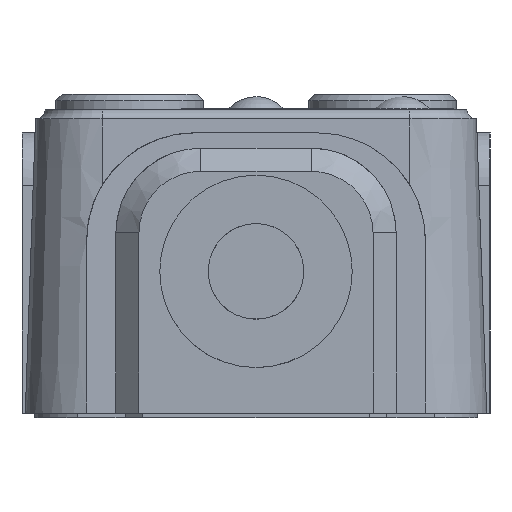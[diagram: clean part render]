
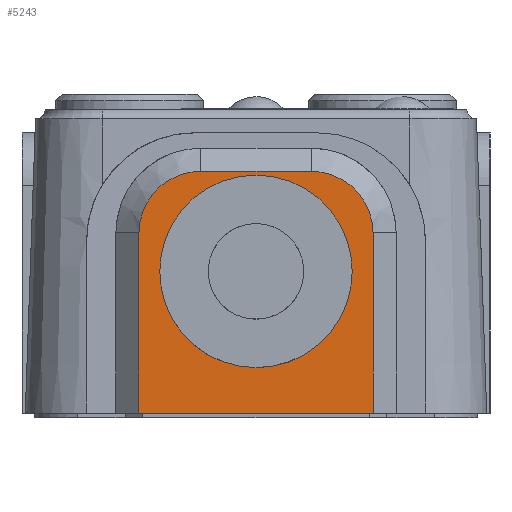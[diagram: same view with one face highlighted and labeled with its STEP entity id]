
A CAD part, left-side view. The second image highlights one B-rep face of the part: STEP entity #5243.
In plain terms, the highlighted planar face has unit normal (-1, 0, 0).
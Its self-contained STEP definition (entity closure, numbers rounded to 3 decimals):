
#1188=FACE_BOUND('',#14947,.T.);
#1189=FACE_BOUND('',#14948,.T.);
#3698=CIRCLE('',#68022,6.25);
#3937=CIRCLE('',#68492,4.);
#3938=CIRCLE('',#68493,4.);
#5243=ADVANCED_FACE('',(#1188,#1189),#9001,.T.);
#9001=PLANE('',#68494);
#14947=EDGE_LOOP('',(#23414,#23415,#23416,#23417,#23418,#23419));
#14948=EDGE_LOOP('',(#23420));
#23414=ORIENTED_EDGE('',*,*,#47727,.T.);
#23415=ORIENTED_EDGE('',*,*,#47728,.T.);
#23416=ORIENTED_EDGE('',*,*,#47729,.T.);
#23417=ORIENTED_EDGE('',*,*,#47730,.T.);
#23418=ORIENTED_EDGE('',*,*,#47731,.T.);
#23419=ORIENTED_EDGE('',*,*,#47272,.F.);
#23420=ORIENTED_EDGE('',*,*,#45463,.F.);
#39021=VERTEX_POINT('',#89932);
#40782=VERTEX_POINT('',#93597);
#40783=VERTEX_POINT('',#93599);
#41072=VERTEX_POINT('',#94846);
#41073=VERTEX_POINT('',#94848);
#41074=VERTEX_POINT('',#94850);
#41075=VERTEX_POINT('',#94852);
#45463=EDGE_CURVE('',#39021,#39021,#3698,.T.);
#47272=EDGE_CURVE('',#40782,#40783,#56308,.T.);
#47727=EDGE_CURVE('',#40782,#41072,#56599,.T.);
#47728=EDGE_CURVE('',#41072,#41073,#3937,.T.);
#47729=EDGE_CURVE('',#41073,#41074,#56600,.T.);
#47730=EDGE_CURVE('',#41074,#41075,#3938,.T.);
#47731=EDGE_CURVE('',#41075,#40783,#56601,.T.);
#56308=LINE('',#93598,#63054);
#56599=LINE('',#94845,#63345);
#56600=LINE('',#94849,#63346);
#56601=LINE('',#94853,#63347);
#63054=VECTOR('',#75156,1.);
#63345=VECTOR('',#76069,1.);
#63346=VECTOR('',#76072,1.);
#63347=VECTOR('',#76075,1.);
#68022=AXIS2_PLACEMENT_3D('',#89931,#73138,#73139);
#68492=AXIS2_PLACEMENT_3D('',#94847,#76070,#76071);
#68493=AXIS2_PLACEMENT_3D('',#94851,#76073,#76074);
#68494=AXIS2_PLACEMENT_3D('',#94854,#76076,#76077);
#73138=DIRECTION('',(-1.,0.,0.));
#73139=DIRECTION('',(0.,1.,0.));
#75156=DIRECTION('',(0.,1.,0.));
#76069=DIRECTION('',(0.,0.,1.));
#76070=DIRECTION('',(-1.,0.,0.));
#76071=DIRECTION('',(0.,-1.,0.));
#76072=DIRECTION('',(0.,1.,0.));
#76073=DIRECTION('',(-1.,0.,0.));
#76074=DIRECTION('',(0.,0.,1.));
#76075=DIRECTION('',(0.,0.,-1.));
#76076=DIRECTION('',(-1.,0.,0.));
#76077=DIRECTION('',(0.,0.,-1.));
#89931=CARTESIAN_POINT('',(-14.5,0.,-10.5));
#89932=CARTESIAN_POINT('',(-14.5,6.25,-10.5));
#93597=CARTESIAN_POINT('',(-14.5,-7.6,-19.7));
#93598=CARTESIAN_POINT('',(-14.5,-7.6,-19.7));
#93599=CARTESIAN_POINT('',(-14.5,7.6,-19.7));
#94845=CARTESIAN_POINT('',(-14.5,-7.6,-19.7));
#94846=CARTESIAN_POINT('',(-14.5,-7.6,-8.));
#94847=CARTESIAN_POINT('',(-14.5,-3.6,-8.));
#94848=CARTESIAN_POINT('',(-14.5,-3.6,-4.));
#94849=CARTESIAN_POINT('',(-14.5,-3.6,-4.));
#94850=CARTESIAN_POINT('',(-14.5,3.6,-4.));
#94851=CARTESIAN_POINT('',(-14.5,3.6,-8.));
#94852=CARTESIAN_POINT('',(-14.5,7.6,-8.));
#94853=CARTESIAN_POINT('',(-14.5,7.6,-8.));
#94854=CARTESIAN_POINT('',(-14.5,-1.,-20.));
